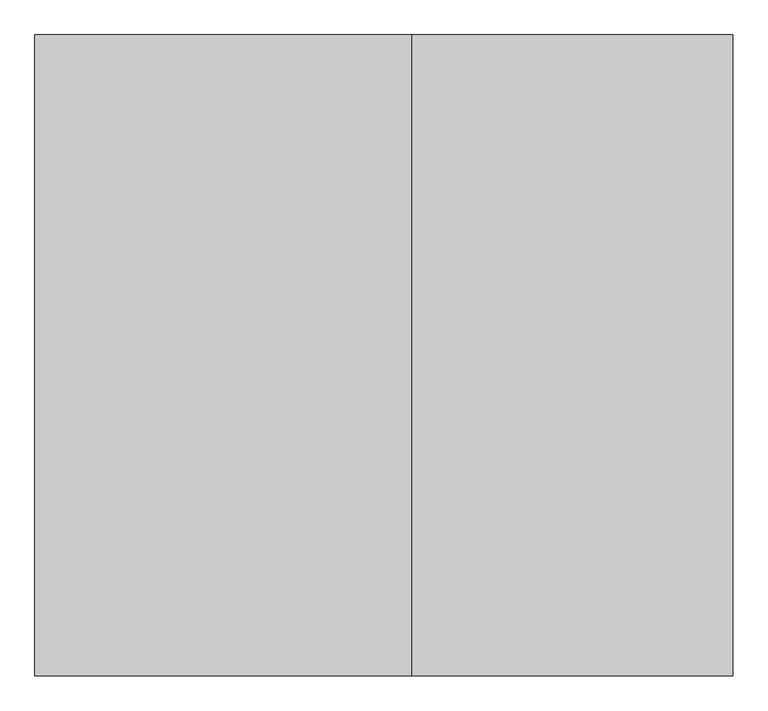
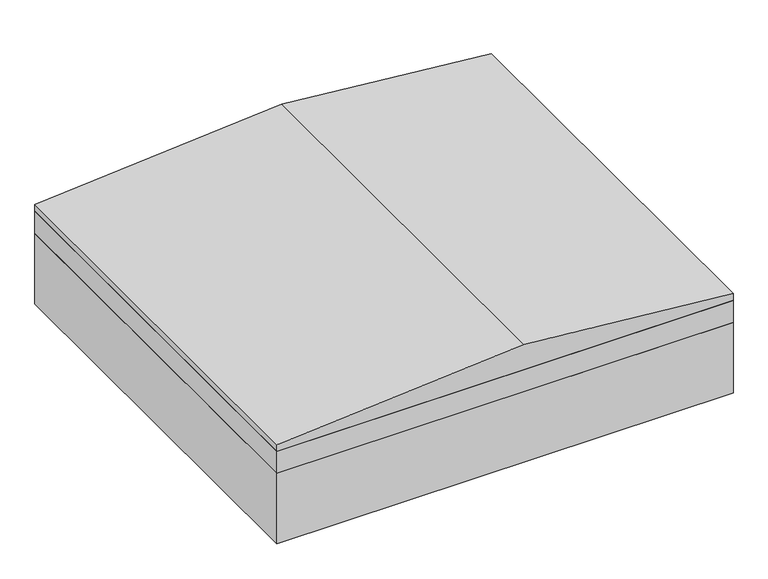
"""IFC4 building model written with IfcOpenShell, lengths in millimetres: proxy geometry, Skydome 3 : Skydome 3."""

from ifc_helpers import new_model, si_unit, frame, origin, place, context, project, spatial, polyline, outline, extrude, faceted_brep, source, transform, mapped, element, save


def generic_models_4879332a(model_context):
    return source(origin(), model_context, "Body", "SolidModel", [
        extrude(outline(polyline([(263.1, 612.7), (281.8474386, 612.7), (334.8919727, 50.0), (281.8474386, -612.7), (263.1, -612.7), (263.1, 612.7)])), frame((0.0, -562.7, 0.0), z_axis=(0.0, 1.0, 0.0), x_axis=(0.0, 0.0, 1.0)), (0.0, 0.0, 1.0), 1125.4),
        extrude(outline(polyline([(612.7, -562.7), (-612.7, -562.7), (-612.7, 562.7), (612.7, 562.7), (612.7, -562.7)]), holes=[polyline([(-574.6, 524.6), (-574.6, -524.6), (574.6, -524.6), (574.6, 524.6), (-574.6, 524.6)])]), frame((0.0, 0.0, -0.4), z_axis=(0.0, 0.0, 1.0), x_axis=(1.0, 0.0, 0.0)), (0.0, 0.0, 1.0), 200.0),
        faceted_brep([(574.6, 524.6, 212.3), (574.6, 524.6, 263.1), (574.6, -524.6, 263.1), (574.6, -524.6, 212.3), (536.5, 486.5, 244.05), (536.5, 486.5, 212.3), (536.5, -486.5, 212.3), (536.5, -486.5, 244.05), (555.55, 505.55, 263.1), (555.55, 505.55, 244.05), (555.55, -505.55, 244.05), (555.55, -505.55, 263.1), (-574.6, -524.6, 263.1), (-574.6, -524.6, 212.3), (-536.5, -486.5, 212.3), (-536.5, -486.5, 244.05), (-555.55, -505.55, 244.05), (-555.55, -505.55, 263.1), (-574.6, 524.6, 263.1), (-574.6, 524.6, 212.3), (-536.5, 486.5, 212.3), (-536.5, 486.5, 244.05), (-555.55, 505.55, 244.05), (-555.55, 505.55, 263.1)], [[[0, 1, 2, 3]], [[4, 5, 6, 7]], [[8, 9, 10, 11]], [[3, 2, 12, 13]], [[7, 6, 14, 15]], [[11, 10, 16, 17]], [[13, 12, 18, 19]], [[15, 14, 20, 21]], [[17, 16, 22, 23]], [[1, 18, 12, 2], [11, 17, 23, 8]], [[19, 18, 1, 0]], [[3, 13, 19, 0], [5, 20, 14, 6]], [[21, 20, 5, 4]], [[9, 22, 16, 10], [7, 15, 21, 4]], [[23, 22, 9, 8]]]),
        faceted_brep([(612.7, 562.7, 199.6), (612.7, 562.7, 263.1), (612.7, -562.7, 263.1), (612.7, -562.7, 199.6), (600.0, 550.0, 237.7), (600.0, 550.0, 199.6), (600.0, -550.0, 199.6), (600.0, -550.0, 237.7), (574.6, 524.6, 263.1), (574.6, 524.6, 237.7), (574.6, -524.6, 237.7), (574.6, -524.6, 263.1), (-612.7, -562.7, 263.1), (-612.7, -562.7, 199.6), (-600.0, -550.0, 199.6), (-600.0, -550.0, 237.7), (-574.6, -524.6, 237.7), (-574.6, -524.6, 263.1), (-612.7, 562.7, 263.1), (-612.7, 562.7, 199.6), (-600.0, 550.0, 199.6), (-600.0, 550.0, 237.7), (-574.6, 524.6, 237.7), (-574.6, 524.6, 263.1)], [[[0, 1, 2, 3]], [[4, 5, 6, 7]], [[8, 9, 10, 11]], [[3, 2, 12, 13]], [[7, 6, 14, 15]], [[11, 10, 16, 17]], [[13, 12, 18, 19]], [[15, 14, 20, 21]], [[17, 16, 22, 23]], [[1, 18, 12, 2], [11, 17, 23, 8]], [[19, 18, 1, 0]], [[3, 13, 19, 0], [5, 20, 14, 6]], [[21, 20, 5, 4]], [[7, 15, 21, 4], [9, 22, 16, 10]], [[23, 22, 9, 8]]]),
    ])


if __name__ == "__main__":
    model = new_model("IFC4")
    model_context = context("Model", 3, world=origin())
    ifc_project = project(units=[si_unit("LENGTHUNIT", "METRE", prefix="MILLI")], contexts=[model_context])
    site = spatial("IfcSite", under=ifc_project)
    building = spatial("IfcBuilding", under=site)
    placement = place(None, origin())
    generic_models_shape = generic_models_4879332a(model_context)
    element("IfcBuildingElementProxy", 1, Name="Skydome 3 : Skydome 3", ObjectType="Skydome 3 : Skydome 3", at=placement, inside=building, context=model_context, shape_type="MappedRepresentation", body=[
        mapped(generic_models_shape, transform((0.0, 0.0, 0.0), x_axis=(1.0, 0.0, 0.0), y_axis=(0.0, 1.0, 0.0), z_axis=(0.0, 0.0, 1.0))),
    ])
    save(model, "model.ifc")
